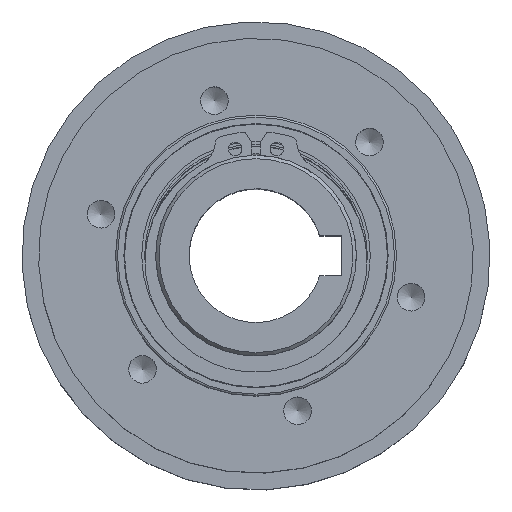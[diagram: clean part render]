
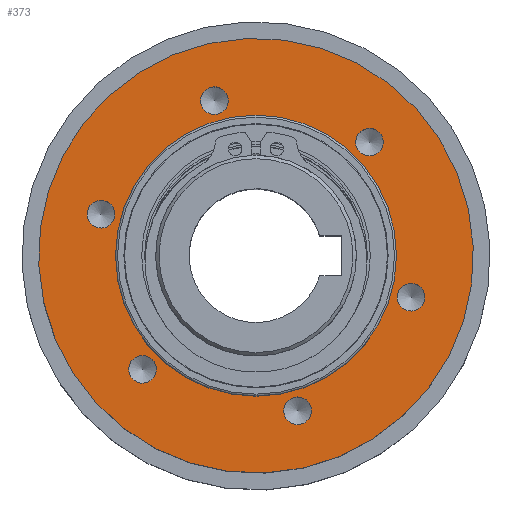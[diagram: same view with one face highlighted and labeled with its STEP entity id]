
A CAD part, top view. The second image highlights one B-rep face of the part: STEP entity #373.
In plain terms, the highlighted planar face has unit normal (0, 0, 1).
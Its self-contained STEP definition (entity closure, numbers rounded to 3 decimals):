
#373 = ADVANCED_FACE( '', ( #1257, #1258, #1259, #1260, #1261, #1262, #1263, #1264 ), #1265, .T. );
#1257 = FACE_BOUND( '', #2577, .T. );
#1258 = FACE_BOUND( '', #2578, .T. );
#1259 = FACE_BOUND( '', #2579, .T. );
#1260 = FACE_BOUND( '', #2580, .T. );
#1261 = FACE_BOUND( '', #2581, .T. );
#1262 = FACE_BOUND( '', #2582, .T. );
#1263 = FACE_BOUND( '', #2583, .T. );
#1264 = FACE_OUTER_BOUND( '', #2584, .T. );
#1265 = PLANE( '', #2585 );
#2577 = EDGE_LOOP( '', ( #4197 ) );
#2578 = EDGE_LOOP( '', ( #4198 ) );
#2579 = EDGE_LOOP( '', ( #4199 ) );
#2580 = EDGE_LOOP( '', ( #4200 ) );
#2581 = EDGE_LOOP( '', ( #4201 ) );
#2582 = EDGE_LOOP( '', ( #4202 ) );
#2583 = EDGE_LOOP( '', ( #4203 ) );
#2584 = EDGE_LOOP( '', ( #4204 ) );
#2585 = AXIS2_PLACEMENT_3D( '', #4205, #4206, #4207 );
#4197 = ORIENTED_EDGE( '', *, *, #6440, .T. );
#4198 = ORIENTED_EDGE( '', *, *, #6441, .T. );
#4199 = ORIENTED_EDGE( '', *, *, #6442, .T. );
#4200 = ORIENTED_EDGE( '', *, *, #6443, .T. );
#4201 = ORIENTED_EDGE( '', *, *, #6444, .T. );
#4202 = ORIENTED_EDGE( '', *, *, #6445, .T. );
#4203 = ORIENTED_EDGE( '', *, *, #6446, .T. );
#4204 = ORIENTED_EDGE( '', *, *, #6447, .T. );
#4205 = CARTESIAN_POINT( '', ( -17.783, -42.98, 42. ) );
#4206 = DIRECTION( '', ( 0., 0., 1. ) );
#4207 = DIRECTION( '', ( 0.924, 0.383, 0. ) );
#6440 = EDGE_CURVE( '', #7422, #7422, #7423, .F. );
#6441 = EDGE_CURVE( '', #7424, #7424, #7425, .T. );
#6442 = EDGE_CURVE( '', #7426, #7426, #7427, .T. );
#6443 = EDGE_CURVE( '', #7428, #7428, #7429, .T. );
#6444 = EDGE_CURVE( '', #7430, #7430, #7431, .T. );
#6445 = EDGE_CURVE( '', #7432, #7432, #7433, .T. );
#6446 = EDGE_CURVE( '', #7434, #7434, #7435, .T. );
#6447 = EDGE_CURVE( '', #7436, #7436, #7437, .T. );
#7422 = VERTEX_POINT( '', #9046 );
#7423 = CIRCLE( '', #9047, 21. );
#7424 = VERTEX_POINT( '', #9048 );
#7425 = CIRCLE( '', #9049, 2.067 );
#7426 = VERTEX_POINT( '', #9050 );
#7427 = CIRCLE( '', #9051, 2.067 );
#7428 = VERTEX_POINT( '', #9052 );
#7429 = CIRCLE( '', #9053, 2.067 );
#7430 = VERTEX_POINT( '', #9054 );
#7431 = CIRCLE( '', #9055, 2.067 );
#7432 = VERTEX_POINT( '', #9056 );
#7433 = CIRCLE( '', #9057, 2.067 );
#7434 = VERTEX_POINT( '', #9058 );
#7435 = CIRCLE( '', #9059, 2.067 );
#7436 = VERTEX_POINT( '', #9060 );
#7437 = CIRCLE( '', #9061, 32.5 );
#9046 = CARTESIAN_POINT( '', ( 21., 0., 42. ) );
#9047 = AXIS2_PLACEMENT_3D( '', #12110, #12111, #12112 );
#9048 = CARTESIAN_POINT( '', ( 5.429, -21.27, 42. ) );
#9049 = AXIS2_PLACEMENT_3D( '', #12113, #12114, #12115 );
#9050 = CARTESIAN_POINT( '', ( -15.706, -15.337, 42. ) );
#9051 = AXIS2_PLACEMENT_3D( '', #12116, #12117, #12118 );
#9052 = CARTESIAN_POINT( '', ( -25.094, 5.411, 42. ) );
#9053 = AXIS2_PLACEMENT_3D( '', #12119, #12120, #12121 );
#9054 = CARTESIAN_POINT( '', ( -5.429, 21.27, 42. ) );
#9055 = AXIS2_PLACEMENT_3D( '', #12122, #12123, #12124 );
#9056 = CARTESIAN_POINT( '', ( 15.706, 15.337, 42. ) );
#9057 = AXIS2_PLACEMENT_3D( '', #12125, #12126, #12127 );
#9058 = CARTESIAN_POINT( '', ( 21.275, -6.994, 42. ) );
#9059 = AXIS2_PLACEMENT_3D( '', #12128, #12129, #12130 );
#9060 = CARTESIAN_POINT( '', ( 30.021, 12.449, 42. ) );
#9061 = AXIS2_PLACEMENT_3D( '', #12131, #12132, #12133 );
#12110 = CARTESIAN_POINT( '', ( 0., 0., 42. ) );
#12111 = DIRECTION( '', ( 0., 0., 1. ) );
#12112 = DIRECTION( '', ( 1., 0., 0. ) );
#12113 = CARTESIAN_POINT( '', ( 6.221, -23.18, 42. ) );
#12114 = DIRECTION( '', ( 0., 0., -1. ) );
#12115 = DIRECTION( '', ( -0.924, -0.383, 0. ) );
#12116 = CARTESIAN_POINT( '', ( -16.964, -16.977, 42. ) );
#12117 = DIRECTION( '', ( 0., 0., -1. ) );
#12118 = DIRECTION( '', ( -0.924, -0.383, 0. ) );
#12119 = CARTESIAN_POINT( '', ( -23.185, 6.202, 42. ) );
#12120 = DIRECTION( '', ( 0., 0., -1. ) );
#12121 = DIRECTION( '', ( -0.924, -0.383, 0. ) );
#12122 = CARTESIAN_POINT( '', ( -6.221, 23.18, 42. ) );
#12123 = DIRECTION( '', ( 0., 0., -1. ) );
#12124 = DIRECTION( '', ( -0.924, -0.383, 0. ) );
#12125 = CARTESIAN_POINT( '', ( 16.964, 16.977, 42. ) );
#12126 = DIRECTION( '', ( 0., 0., -1. ) );
#12127 = DIRECTION( '', ( -0.924, -0.383, 0. ) );
#12128 = CARTESIAN_POINT( '', ( 23.185, -6.202, 42. ) );
#12129 = DIRECTION( '', ( 0., 0., -1. ) );
#12130 = DIRECTION( '', ( -0.924, -0.383, 0. ) );
#12131 = CARTESIAN_POINT( '', ( 0., 0., 42. ) );
#12132 = DIRECTION( '', ( 0., 0., 1. ) );
#12133 = DIRECTION( '', ( 0.924, 0.383, 0. ) );
